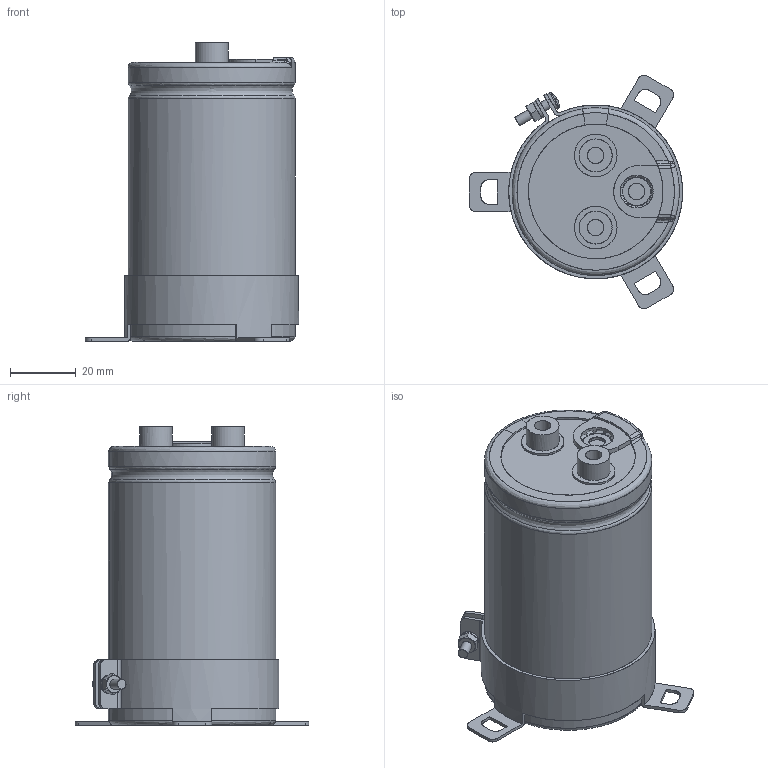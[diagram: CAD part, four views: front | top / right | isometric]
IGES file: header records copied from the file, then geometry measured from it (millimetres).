
Start section: JAMA-IS VERSION  1.0
Bounding box: 65 x 71.22 x 91 mm (x, y, z)
Surface area: 55281.9 mm2 (no closed solid volume)
Topology: 0 solids, 0 shells, 298 faces, 4625 edges, 4595 vertices
Faces by surface type: bspline 298
